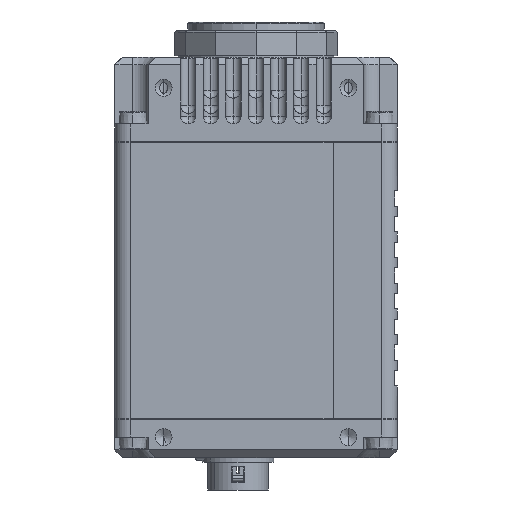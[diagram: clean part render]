
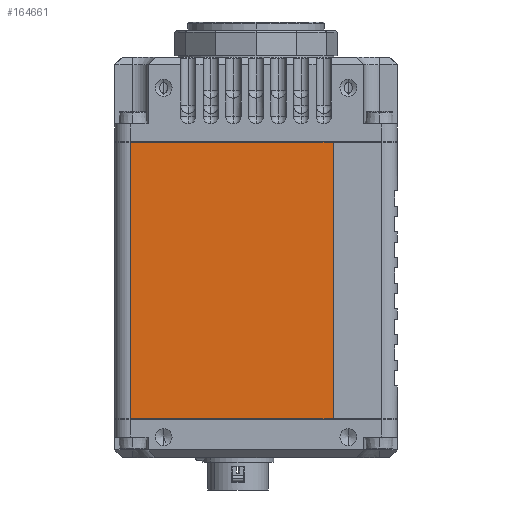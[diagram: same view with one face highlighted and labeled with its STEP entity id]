
A CAD part, left-side view. The second image highlights one B-rep face of the part: STEP entity #164661.
In plain terms, the highlighted planar face has unit normal (-1, 0, 0).
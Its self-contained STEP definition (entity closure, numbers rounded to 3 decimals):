
#2140 = LINE ( 'NONE', #41748, #153265 ) ;
#6238 = DIRECTION ( 'NONE',  ( 1., 0., 0. ) ) ;
#12293 = CARTESIAN_POINT ( 'NONE',  ( -27.5, -15., -5.58 ) ) ;
#12668 = EDGE_CURVE ( 'NONE', #90107, #102343, #52731, .T. ) ;
#15210 = EDGE_CURVE ( 'NONE', #157577, #150403, #2140, .T. ) ;
#23804 = CARTESIAN_POINT ( 'NONE',  ( -27.5, 24.5, -59.48 ) ) ;
#35235 = ORIENTED_EDGE ( 'NONE', *, *, #12668, .F. ) ;
#41748 = CARTESIAN_POINT ( 'NONE',  ( -27.5, 24.5, -5.58 ) ) ;
#52731 = LINE ( 'NONE', #12293, #68457 ) ;
#57463 = DIRECTION ( 'NONE',  ( 0., 0., -1. ) ) ;
#58532 = ORIENTED_EDGE ( 'NONE', *, *, #15210, .T. ) ;
#65942 = DIRECTION ( 'NONE',  ( 0., 0., -1. ) ) ;
#67439 = EDGE_LOOP ( 'NONE', ( #147507, #58532, #135826, #35235 ) ) ;
#68457 = VECTOR ( 'NONE', #65942, 1000. ) ;
#73104 = PLANE ( 'NONE',  #78367 ) ;
#73305 = LINE ( 'NONE', #155261, #113105 ) ;
#73489 = CARTESIAN_POINT ( 'NONE',  ( -27.5, 27.5, -59.48 ) ) ;
#78367 = AXIS2_PLACEMENT_3D ( 'NONE', #88047, #6238, #86315 ) ;
#84714 = CARTESIAN_POINT ( 'NONE',  ( -27.5, -15., -59.48 ) ) ;
#85857 = CARTESIAN_POINT ( 'NONE',  ( -27.5, 24.5, -5.58 ) ) ;
#86315 = DIRECTION ( 'NONE',  ( 0., 1., 0. ) ) ;
#87572 = LINE ( 'NONE', #73489, #105990 ) ;
#88047 = CARTESIAN_POINT ( 'NONE',  ( -27.5, 27.5, -5.58 ) ) ;
#90107 = VERTEX_POINT ( 'NONE', #96646 ) ;
#96646 = CARTESIAN_POINT ( 'NONE',  ( -27.5, -15., -5.58 ) ) ;
#102131 = FACE_OUTER_BOUND ( 'NONE', #67439, .T. ) ;
#102343 = VERTEX_POINT ( 'NONE', #84714 ) ;
#105990 = VECTOR ( 'NONE', #167643, 1000. ) ;
#113105 = VECTOR ( 'NONE', #127215, 1000. ) ;
#116528 = EDGE_CURVE ( 'NONE', #150403, #102343, #87572, .T. ) ;
#127215 = DIRECTION ( 'NONE',  ( 0., -1., 0. ) ) ;
#130225 = EDGE_CURVE ( 'NONE', #157577, #90107, #73305, .T. ) ;
#135826 = ORIENTED_EDGE ( 'NONE', *, *, #116528, .T. ) ;
#147507 = ORIENTED_EDGE ( 'NONE', *, *, #130225, .F. ) ;
#150403 = VERTEX_POINT ( 'NONE', #23804 ) ;
#153265 = VECTOR ( 'NONE', #57463, 1000. ) ;
#155261 = CARTESIAN_POINT ( 'NONE',  ( -27.5, 27.5, -5.58 ) ) ;
#157577 = VERTEX_POINT ( 'NONE', #85857 ) ;
#164661 = ADVANCED_FACE ( 'NONE', ( #102131 ), #73104, .F. ) ;
#167643 = DIRECTION ( 'NONE',  ( 0., -1., 0. ) ) ;
